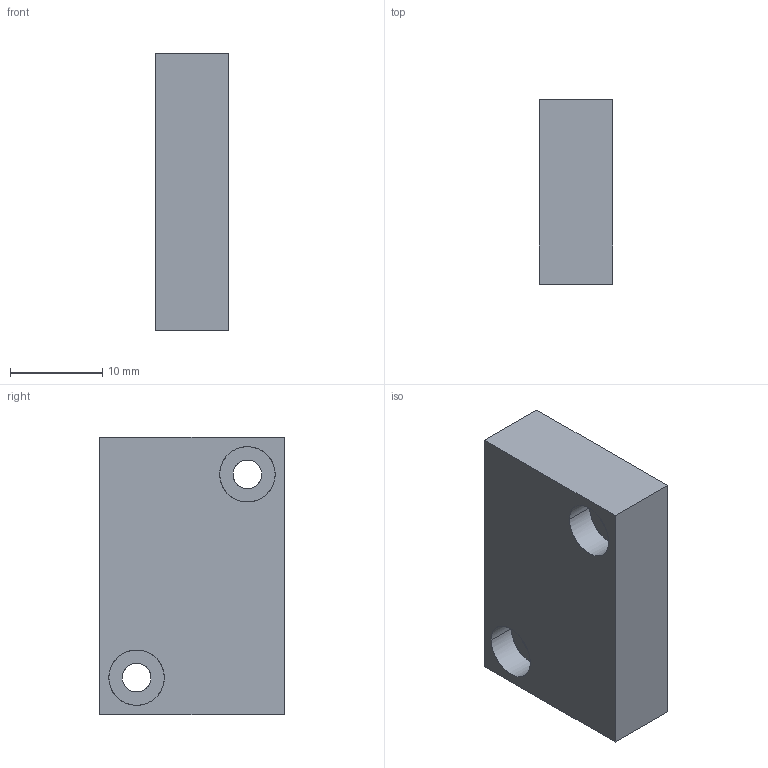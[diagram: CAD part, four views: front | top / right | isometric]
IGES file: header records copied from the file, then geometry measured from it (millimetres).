
Start section: Comment
Global section: file name: IWFM 20U9509_KS35AP.igs; native system:  By Spatial Corp.; preprocessor: XPlus GENERIC/IGES 3.0; author: Author; organization: Title; date: 20060329.085950; units: inch
Bounding box: 8 x 20 x 30 mm (x, y, z)
Surface area: 2266.2 mm2 (no closed solid volume)
Topology: 0 solids, 0 shells, 28 faces, 120 edges, 120 vertices
Faces by surface type: bspline 28
